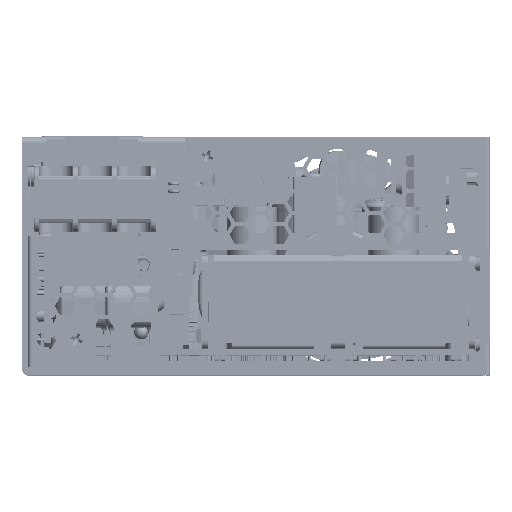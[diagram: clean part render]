
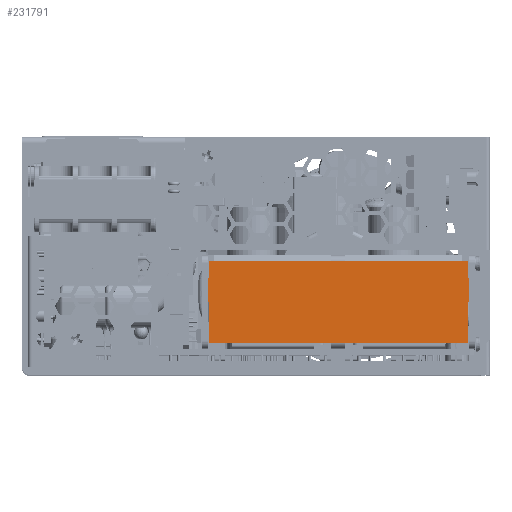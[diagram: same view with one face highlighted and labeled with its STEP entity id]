
A CAD part, top view. The second image highlights one B-rep face of the part: STEP entity #231791.
In plain terms, the highlighted planar face has unit normal (0, 0, 1) as drawn and (0, 0, -1) by its records, which use the part's own axes.
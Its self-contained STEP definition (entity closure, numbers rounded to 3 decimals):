
#231367 = VERTEX_POINT ( 'NONE', #306007 ) ;
#231398 = EDGE_CURVE ( 'NONE', #231405, #231409, #306097, .T. ) ;
#231405 = VERTEX_POINT ( 'NONE', #306090 ) ;
#231409 = VERTEX_POINT ( 'NONE', #306088 ) ;
#231443 = EDGE_CURVE ( 'NONE', #231506, #231367, #306180, .T. ) ;
#231482 = EDGE_CURVE ( 'NONE', #231367, #231483, #306241, .T. ) ;
#231483 = VERTEX_POINT ( 'NONE', #306234 ) ;
#231505 = EDGE_CURVE ( 'NONE', #231409, #231506, #306334, .T. ) ;
#231506 = VERTEX_POINT ( 'NONE', #306327 ) ;
#231520 = EDGE_CURVE ( 'NONE', #231582, #231522, #306311, .T. ) ;
#231522 = VERTEX_POINT ( 'NONE', #306304 ) ;
#231580 = EDGE_CURVE ( 'NONE', #231483, #231582, #306456, .T. ) ;
#231582 = VERTEX_POINT ( 'NONE', #306449 ) ;
#231596 = EDGE_CURVE ( 'NONE', #231650, #231598, #306429, .T. ) ;
#231598 = VERTEX_POINT ( 'NONE', #306555 ) ;
#231609 = EDGE_CURVE ( 'NONE', #231522, #231610, #306526, .T. ) ;
#231610 = VERTEX_POINT ( 'NONE', #306520 ) ;
#231648 = EDGE_CURVE ( 'NONE', #231610, #231650, #306576, .T. ) ;
#231650 = VERTEX_POINT ( 'NONE', #306571 ) ;
#231678 = EDGE_CURVE ( 'NONE', #231708, #231679, #306670, .T. ) ;
#231679 = VERTEX_POINT ( 'NONE', #306656 ) ;
#231696 = EDGE_CURVE ( 'NONE', #231679, #231405, #306768, .T. ) ;
#231707 = EDGE_CURVE ( 'NONE', #231598, #231708, #306739, .T. ) ;
#231708 = VERTEX_POINT ( 'NONE', #306722 ) ;
#231760 = ORIENTED_EDGE ( 'NONE', *, *, #231696, .F. ) ;
#231761 = ORIENTED_EDGE ( 'NONE', *, *, #231678, .F. ) ;
#231762 = ORIENTED_EDGE ( 'NONE', *, *, #231707, .F. ) ;
#231763 = ORIENTED_EDGE ( 'NONE', *, *, #231596, .F. ) ;
#231764 = ORIENTED_EDGE ( 'NONE', *, *, #231648, .F. ) ;
#231766 = ORIENTED_EDGE ( 'NONE', *, *, #231609, .F. ) ;
#231768 = ORIENTED_EDGE ( 'NONE', *, *, #231520, .F. ) ;
#231770 = ORIENTED_EDGE ( 'NONE', *, *, #231580, .F. ) ;
#231772 = ORIENTED_EDGE ( 'NONE', *, *, #231482, .F. ) ;
#231774 = ORIENTED_EDGE ( 'NONE', *, *, #231443, .F. ) ;
#231776 = ORIENTED_EDGE ( 'NONE', *, *, #231505, .F. ) ;
#231791 = ADVANCED_FACE ( 'NONE', ( #306859 ), #306858, .T. ) ;
#231792 = EDGE_LOOP ( 'NONE', ( #231793, #231760, #231761, #231762, #231763, #231764, #231766, #231768, #231770, #231772, #231774, #231776 ) ) ;
#231793 = ORIENTED_EDGE ( 'NONE', *, *, #231398, .F. ) ;
#306007 = CARTESIAN_POINT ( 'NONE',  ( 68.25, 4.5, 0. ) ) ;
#306088 = CARTESIAN_POINT ( 'NONE',  ( 66.5, 0., 0. ) ) ;
#306090 = CARTESIAN_POINT ( 'NONE',  ( 0., 0., 0. ) ) ;
#306092 = DIRECTION ( 'NONE',  ( 1., 0., 0. ) ) ;
#306094 = VECTOR ( 'NONE', #306092, 1000. ) ;
#306096 = CARTESIAN_POINT ( 'NONE',  ( 66.5, 0., 0. ) ) ;
#306097 = LINE ( 'NONE', #306096, #306094 ) ;
#306175 = DIRECTION ( 'NONE',  ( 1., 0., 0. ) ) ;
#306177 = VECTOR ( 'NONE', #306175, 1000. ) ;
#306179 = CARTESIAN_POINT ( 'NONE',  ( 68.25, 4.5, 0. ) ) ;
#306180 = LINE ( 'NONE', #306179, #306177 ) ;
#306234 = CARTESIAN_POINT ( 'NONE',  ( 68.25, 10.5, 0. ) ) ;
#306237 = DIRECTION ( 'NONE',  ( 0., 1., 0. ) ) ;
#306238 = VECTOR ( 'NONE', #306237, 1000. ) ;
#306239 = CARTESIAN_POINT ( 'NONE',  ( 68.25, 10.5, 0. ) ) ;
#306241 = LINE ( 'NONE', #306239, #306238 ) ;
#306304 = CARTESIAN_POINT ( 'NONE',  ( 66.5, 21., 0. ) ) ;
#306306 = DIRECTION ( 'NONE',  ( 0., 1., 0. ) ) ;
#306308 = VECTOR ( 'NONE', #306306, 1000. ) ;
#306310 = CARTESIAN_POINT ( 'NONE',  ( 66.5, 21., 0. ) ) ;
#306311 = LINE ( 'NONE', #306310, #306308 ) ;
#306327 = CARTESIAN_POINT ( 'NONE',  ( 66.5, 4.5, 0. ) ) ;
#306330 = DIRECTION ( 'NONE',  ( 0., 1., 0. ) ) ;
#306331 = VECTOR ( 'NONE', #306330, 1000. ) ;
#306333 = CARTESIAN_POINT ( 'NONE',  ( 66.5, 4.5, 0. ) ) ;
#306334 = LINE ( 'NONE', #306333, #306331 ) ;
#306429 = LINE ( 'NONE', #306559, #306558 ) ;
#306449 = CARTESIAN_POINT ( 'NONE',  ( 66.5, 10.5, 0. ) ) ;
#306451 = DIRECTION ( 'NONE',  ( -1., 0., 0. ) ) ;
#306453 = VECTOR ( 'NONE', #306451, 1000. ) ;
#306455 = CARTESIAN_POINT ( 'NONE',  ( 66.5, 10.5, 0. ) ) ;
#306456 = LINE ( 'NONE', #306455, #306453 ) ;
#306520 = CARTESIAN_POINT ( 'NONE',  ( 0., 21., 0. ) ) ;
#306522 = DIRECTION ( 'NONE',  ( -1., 0., 0. ) ) ;
#306523 = VECTOR ( 'NONE', #306522, 1000. ) ;
#306525 = CARTESIAN_POINT ( 'NONE',  ( 0., 21., 0. ) ) ;
#306526 = LINE ( 'NONE', #306525, #306523 ) ;
#306555 = CARTESIAN_POINT ( 'NONE',  ( -1.75, 10.5, 0. ) ) ;
#306557 = DIRECTION ( 'NONE',  ( -1., 0., 0. ) ) ;
#306558 = VECTOR ( 'NONE', #306557, 1000. ) ;
#306559 = CARTESIAN_POINT ( 'NONE',  ( -1.75, 10.5, 0. ) ) ;
#306571 = CARTESIAN_POINT ( 'NONE',  ( 0., 10.5, 0. ) ) ;
#306572 = DIRECTION ( 'NONE',  ( 0., -1., 0. ) ) ;
#306574 = VECTOR ( 'NONE', #306572, 1000. ) ;
#306575 = CARTESIAN_POINT ( 'NONE',  ( 0., 10.5, 0. ) ) ;
#306576 = LINE ( 'NONE', #306575, #306574 ) ;
#306656 = CARTESIAN_POINT ( 'NONE',  ( 0., 4.5, 0. ) ) ;
#306658 = DIRECTION ( 'NONE',  ( 1., 0., 0. ) ) ;
#306660 = VECTOR ( 'NONE', #306658, 1000. ) ;
#306661 = CARTESIAN_POINT ( 'NONE',  ( 0., 4.5, 0. ) ) ;
#306670 = LINE ( 'NONE', #306661, #306660 ) ;
#306722 = CARTESIAN_POINT ( 'NONE',  ( -1.75, 4.5, 0. ) ) ;
#306725 = DIRECTION ( 'NONE',  ( 0., -1., 0. ) ) ;
#306726 = VECTOR ( 'NONE', #306725, 1000. ) ;
#306729 = CARTESIAN_POINT ( 'NONE',  ( -1.75, 4.5, 0. ) ) ;
#306739 = LINE ( 'NONE', #306729, #306726 ) ;
#306756 = DIRECTION ( 'NONE',  ( 0., -1., 0. ) ) ;
#306758 = VECTOR ( 'NONE', #306756, 1000. ) ;
#306759 = CARTESIAN_POINT ( 'NONE',  ( 0., 0., 0. ) ) ;
#306768 = LINE ( 'NONE', #306759, #306758 ) ;
#306858 = PLANE ( 'NONE',  #306950 ) ;
#306859 = FACE_OUTER_BOUND ( 'NONE', #231792, .T. ) ;
#306941 = DIRECTION ( 'NONE',  ( -1., 0., 0. ) ) ;
#306942 = DIRECTION ( 'NONE',  ( 0., 0., -1. ) ) ;
#306944 = CARTESIAN_POINT ( 'NONE',  ( 0., 0., 0. ) ) ;
#306950 = AXIS2_PLACEMENT_3D ( 'NONE', #306944, #306942, #306941 ) ;
